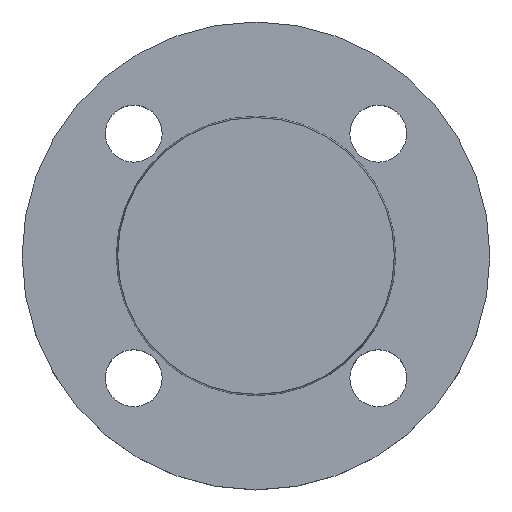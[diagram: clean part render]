
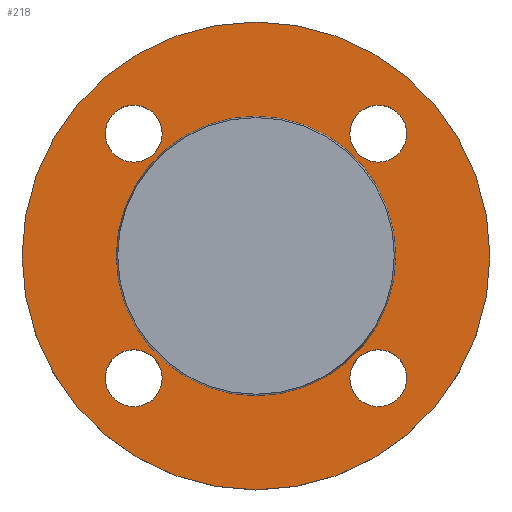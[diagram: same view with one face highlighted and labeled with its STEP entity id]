
A CAD part, top view. The second image highlights one B-rep face of the part: STEP entity #218.
In plain terms, the highlighted planar face has unit normal (0, 0, 1).
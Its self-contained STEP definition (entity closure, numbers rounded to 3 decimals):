
#1 = AXIS2_PLACEMENT_3D ( 'NONE', #509, #510, #511 ) ;
#3 = AXIS2_PLACEMENT_3D ( 'NONE', #454, #455, #456 ) ;
#5 = CIRCLE ( 'NONE', #11, 7. ) ;
#11 = AXIS2_PLACEMENT_3D ( 'NONE', #314, #315, #316 ) ;
#24 = CIRCLE ( 'NONE', #95, 7. ) ;
#26 = EDGE_CURVE ( 'NONE', #271, #267, #5, .T. ) ;
#55 = AXIS2_PLACEMENT_3D ( 'NONE', #379, #380, #381 ) ;
#58 = CIRCLE ( 'NONE', #61, 7. ) ;
#61 = AXIS2_PLACEMENT_3D ( 'NONE', #393, #394, #395 ) ;
#73 = AXIS2_PLACEMENT_3D ( 'NONE', #422, #423, #424 ) ;
#74 = CIRCLE ( 'NONE', #108, 34.353 ) ;
#77 = EDGE_CURVE ( 'NONE', #176, #135, #478, .T. ) ;
#95 = AXIS2_PLACEMENT_3D ( 'NONE', #490, #491, #492 ) ;
#97 = AXIS2_PLACEMENT_3D ( 'NONE', #419, #420, #421 ) ;
#100 = CIRCLE ( 'NONE', #152, 7. ) ;
#104 = AXIS2_PLACEMENT_3D ( 'NONE', #343, #344, #345 ) ;
#106 = CIRCLE ( 'NONE', #237, 7. ) ;
#108 = AXIS2_PLACEMENT_3D ( 'NONE', #407, #408, #409 ) ;
#113 = VERTEX_POINT ( 'NONE', #377 ) ;
#117 = EDGE_CURVE ( 'NONE', #267, #271, #285, .T. ) ;
#135 = VERTEX_POINT ( 'NONE', #382 ) ;
#143 = EDGE_CURVE ( 'NONE', #233, #251, #58, .T. ) ;
#146 = EDGE_CURVE ( 'NONE', #188, #113, #106, .T. ) ;
#151 = EDGE_CURVE ( 'NONE', #257, #167, #74, .T. ) ;
#152 = AXIS2_PLACEMENT_3D ( 'NONE', #416, #417, #418 ) ;
#155 = CIRCLE ( 'NONE', #1, 7. ) ;
#159 = EDGE_CURVE ( 'NONE', #193, #249, #100, .T. ) ;
#160 = EDGE_CURVE ( 'NONE', #135, #176, #177, .T. ) ;
#163 = EDGE_CURVE ( 'NONE', #251, #233, #196, .T. ) ;
#167 = VERTEX_POINT ( 'NONE', #428 ) ;
#176 = VERTEX_POINT ( 'NONE', #429 ) ;
#177 = CIRCLE ( 'NONE', #97, 57.5 ) ;
#186 = ORIENTED_EDGE ( 'NONE', *, *, #515, .T. ) ;
#188 = VERTEX_POINT ( 'NONE', #431 ) ;
#189 = ORIENTED_EDGE ( 'NONE', *, *, #146, .T. ) ;
#190 = ORIENTED_EDGE ( 'NONE', *, *, #295, .T. ) ;
#193 = VERTEX_POINT ( 'NONE', #433 ) ;
#195 = CIRCLE ( 'NONE', #260, 34.353 ) ;
#196 = CIRCLE ( 'NONE', #73, 7. ) ;
#197 = ORIENTED_EDGE ( 'NONE', *, *, #159, .T. ) ;
#199 = ORIENTED_EDGE ( 'NONE', *, *, #117, .T. ) ;
#200 = ORIENTED_EDGE ( 'NONE', *, *, #26, .T. ) ;
#203 = ORIENTED_EDGE ( 'NONE', *, *, #143, .T. ) ;
#204 = ORIENTED_EDGE ( 'NONE', *, *, #163, .T. ) ;
#205 = ORIENTED_EDGE ( 'NONE', *, *, #355, .T. ) ;
#206 = ORIENTED_EDGE ( 'NONE', *, *, #151, .T. ) ;
#207 = ORIENTED_EDGE ( 'NONE', *, *, #160, .F. ) ;
#209 = ORIENTED_EDGE ( 'NONE', *, *, #77, .F. ) ;
#218 = ADVANCED_FACE ( 'NONE', ( #445, #446, #448, #449, #451, #452 ), #453, .T. ) ;
#233 = VERTEX_POINT ( 'NONE', #461 ) ;
#237 = AXIS2_PLACEMENT_3D ( 'NONE', #399, #400, #401 ) ;
#249 = VERTEX_POINT ( 'NONE', #469 ) ;
#251 = VERTEX_POINT ( 'NONE', #470 ) ;
#253 = EDGE_LOOP ( 'NONE', ( #186, #189 ) ) ;
#254 = EDGE_LOOP ( 'NONE', ( #207, #209 ) ) ;
#257 = VERTEX_POINT ( 'NONE', #472 ) ;
#260 = AXIS2_PLACEMENT_3D ( 'NONE', #493, #494, #495 ) ;
#261 = EDGE_LOOP ( 'NONE', ( #205, #206 ) ) ;
#265 = EDGE_LOOP ( 'NONE', ( #199, #200 ) ) ;
#267 = VERTEX_POINT ( 'NONE', #480 ) ;
#270 = EDGE_LOOP ( 'NONE', ( #203, #204 ) ) ;
#271 = VERTEX_POINT ( 'NONE', #482 ) ;
#276 = EDGE_LOOP ( 'NONE', ( #190, #197 ) ) ;
#285 = CIRCLE ( 'NONE', #55, 7. ) ;
#295 = EDGE_CURVE ( 'NONE', #249, #193, #24, .T. ) ;
#314 = CARTESIAN_POINT ( 'NONE',  ( -30.052, 30.052, -2. ) ) ;
#315 = DIRECTION ( 'NONE',  ( 0., 0., -1. ) ) ;
#316 = DIRECTION ( 'NONE',  ( 1., 0., 0. ) ) ;
#343 = CARTESIAN_POINT ( 'NONE',  ( 0., 0., -2. ) ) ;
#344 = DIRECTION ( 'NONE',  ( 0., 0., -1. ) ) ;
#345 = DIRECTION ( 'NONE',  ( -1., 0., 0. ) ) ;
#355 = EDGE_CURVE ( 'NONE', #167, #257, #195, .T. ) ;
#377 = CARTESIAN_POINT ( 'NONE',  ( 37.052, -30.052, -2. ) ) ;
#379 = CARTESIAN_POINT ( 'NONE',  ( -30.052, 30.052, -2. ) ) ;
#380 = DIRECTION ( 'NONE',  ( 0., 0., -1. ) ) ;
#381 = DIRECTION ( 'NONE',  ( 1., 0., 0. ) ) ;
#382 = CARTESIAN_POINT ( 'NONE',  ( 57.5, 0., -2. ) ) ;
#393 = CARTESIAN_POINT ( 'NONE',  ( 30.052, 30.052, -2. ) ) ;
#394 = DIRECTION ( 'NONE',  ( 0., 0., -1. ) ) ;
#395 = DIRECTION ( 'NONE',  ( 1., 0., 0. ) ) ;
#399 = CARTESIAN_POINT ( 'NONE',  ( 30.052, -30.052, -2. ) ) ;
#400 = DIRECTION ( 'NONE',  ( 0., 0., -1. ) ) ;
#401 = DIRECTION ( 'NONE',  ( 1., 0., 0. ) ) ;
#407 = CARTESIAN_POINT ( 'NONE',  ( 0., 0., -2. ) ) ;
#408 = DIRECTION ( 'NONE',  ( 0., 0., -1. ) ) ;
#409 = DIRECTION ( 'NONE',  ( -1., 0., 0. ) ) ;
#416 = CARTESIAN_POINT ( 'NONE',  ( -30.052, -30.052, -2. ) ) ;
#417 = DIRECTION ( 'NONE',  ( 0., 0., -1. ) ) ;
#418 = DIRECTION ( 'NONE',  ( 1., 0., 0. ) ) ;
#419 = CARTESIAN_POINT ( 'NONE',  ( 0., 0., -2. ) ) ;
#420 = DIRECTION ( 'NONE',  ( 0., 0., -1. ) ) ;
#421 = DIRECTION ( 'NONE',  ( -1., 0., 0. ) ) ;
#422 = CARTESIAN_POINT ( 'NONE',  ( 30.052, 30.052, -2. ) ) ;
#423 = DIRECTION ( 'NONE',  ( 0., 0., -1. ) ) ;
#424 = DIRECTION ( 'NONE',  ( 1., 0., 0. ) ) ;
#428 = CARTESIAN_POINT ( 'NONE',  ( -34.353, 0., -2. ) ) ;
#429 = CARTESIAN_POINT ( 'NONE',  ( -57.5, 0., -2. ) ) ;
#431 = CARTESIAN_POINT ( 'NONE',  ( 23.052, -30.052, -2. ) ) ;
#433 = CARTESIAN_POINT ( 'NONE',  ( -37.052, -30.052, -2. ) ) ;
#445 = FACE_BOUND ( 'NONE', #253, .T. ) ;
#446 = FACE_BOUND ( 'NONE', #276, .T. ) ;
#448 = FACE_BOUND ( 'NONE', #265, .T. ) ;
#449 = FACE_BOUND ( 'NONE', #270, .T. ) ;
#451 = FACE_BOUND ( 'NONE', #261, .T. ) ;
#452 = FACE_OUTER_BOUND ( 'NONE', #254, .T. ) ;
#453 = PLANE ( 'NONE',  #3 ) ;
#454 = CARTESIAN_POINT ( 'NONE',  ( 34.353, 0., -2. ) ) ;
#455 = DIRECTION ( 'NONE',  ( 0., 0., 1. ) ) ;
#456 = DIRECTION ( 'NONE',  ( 1., 0., 0. ) ) ;
#461 = CARTESIAN_POINT ( 'NONE',  ( 37.052, 30.052, -2. ) ) ;
#469 = CARTESIAN_POINT ( 'NONE',  ( -23.052, -30.052, -2. ) ) ;
#470 = CARTESIAN_POINT ( 'NONE',  ( 23.052, 30.052, -2. ) ) ;
#472 = CARTESIAN_POINT ( 'NONE',  ( 34.353, 0., -2. ) ) ;
#478 = CIRCLE ( 'NONE', #104, 57.5 ) ;
#480 = CARTESIAN_POINT ( 'NONE',  ( -23.052, 30.052, -2. ) ) ;
#482 = CARTESIAN_POINT ( 'NONE',  ( -37.052, 30.052, -2. ) ) ;
#490 = CARTESIAN_POINT ( 'NONE',  ( -30.052, -30.052, -2. ) ) ;
#491 = DIRECTION ( 'NONE',  ( 0., 0., -1. ) ) ;
#492 = DIRECTION ( 'NONE',  ( 1., 0., 0. ) ) ;
#493 = CARTESIAN_POINT ( 'NONE',  ( 0., 0., -2. ) ) ;
#494 = DIRECTION ( 'NONE',  ( 0., 0., -1. ) ) ;
#495 = DIRECTION ( 'NONE',  ( -1., 0., 0. ) ) ;
#509 = CARTESIAN_POINT ( 'NONE',  ( 30.052, -30.052, -2. ) ) ;
#510 = DIRECTION ( 'NONE',  ( 0., 0., -1. ) ) ;
#511 = DIRECTION ( 'NONE',  ( 1., 0., 0. ) ) ;
#515 = EDGE_CURVE ( 'NONE', #113, #188, #155, .T. ) ;
